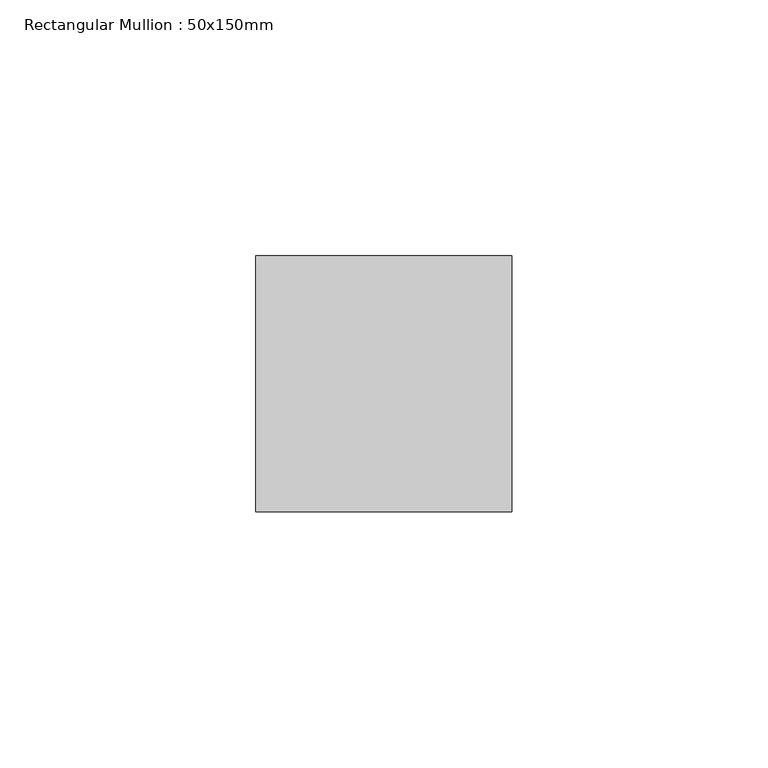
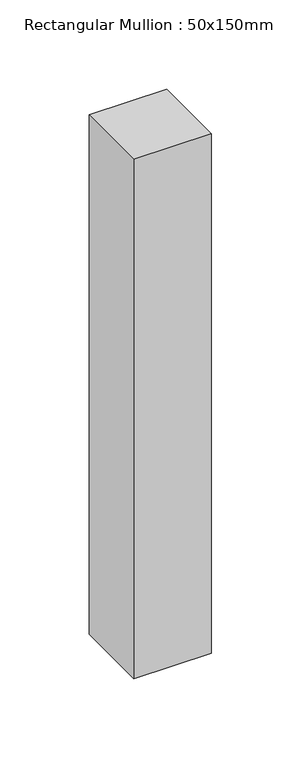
"""IFC4 building model written with IfcOpenShell, lengths in millimetres: member geometry, Rectangular Mullion : 50x150mm."""

import ifcopenshell
import ifcopenshell.guid

model = None  # the IFC model being written
_history = None  # IfcOwnerHistory: only IFC2X3 demands one
_inside = {}  # id of a spatial element -> (the spatial element, [elements in it])
_under = {}  # id of a project, library or spatial element -> (it, [spatial elements below it])
_declared = {}  # id of a project -> (the project, [libraries it declares])
_typed = {}  # id of a type object -> (the type object, [elements of that type])
_made_of = {}  # id of a material, layer set ... -> (it, [elements and type objects made of it])


def new_model(schema):
    """Start an empty IFC model of exactly this schema.

    Asked for "IFC4X3", IfcOpenShell would pick the latest addendum, in which some entities
    have other attributes; the version numbers below select the first issue.
    IFC2X3 requires an IfcOwnerHistory on every rooted entity: one is made here for all.
    """
    global model, _history
    if schema == "IFC4X3":
        model = ifcopenshell.file(schema_version=(4, 3, 0, 0))
    else:
        model = ifcopenshell.file(schema=schema)
    _inside.clear()
    _under.clear()
    _declared.clear()
    _typed.clear()
    _made_of.clear()
    _history = None
    if model.schema == "IFC2X3":
        org = make("IfcOrganization", Name="unknown")
        user = make(
            "IfcPersonAndOrganization",
            ThePerson=make("IfcPerson", FamilyName="unknown"),
            TheOrganization=org,
        )
        app = make(
            "IfcApplication",
            ApplicationDeveloper=org,
            Version="unknown",
            ApplicationFullName="unknown",
            ApplicationIdentifier="unknown",
        )
        _history = make(
            "IfcOwnerHistory",
            OwningUser=user,
            OwningApplication=app,
            ChangeAction="ADDED",
            CreationDate=0,
        )
    return model


def make(cls, **values):
    """One entity of the class cls with the attributes given. An attribute that is None is left unset."""
    return model.create_entity(
        cls, **{name: value for name, value in values.items() if value is not None}
    )


def rooted(cls, **values):
    """An entity with a GlobalId (a new one), such as an element, a storey or a relation."""
    return make(cls, GlobalId=ifcopenshell.guid.new(), OwnerHistory=_history, **values)


def si_unit(unit_type, name, prefix=None):
    """IfcSIUnit, for example si_unit("LENGTHUNIT", "METRE", prefix="MILLI")."""
    return make("IfcSIUnit", UnitType=unit_type, Prefix=prefix, Name=name)


def assignment(units):
    """IfcUnitAssignment: the units of a project."""
    return None if units is None else make("IfcUnitAssignment", Units=units)


def point(xyz):
    """IfcCartesianPoint."""
    return None if xyz is None else make("IfcCartesianPoint", Coordinates=xyz)


def direction(xyz):
    """IfcDirection."""
    return None if xyz is None else make("IfcDirection", DirectionRatios=xyz)


def frame(location, z_axis=None, x_axis=None):
    """IfcAxis2Placement3D, a coordinate frame: its origin and axes. An axis left out is left unset."""
    return make(
        "IfcAxis2Placement3D",
        Location=point(location),
        Axis=direction(z_axis),
        RefDirection=direction(x_axis),
    )


def origin():
    """The frame at (0, 0, 0) with its axes left unset."""
    return frame((0.0, 0.0, 0.0))


def place(relative_to, where):
    """IfcLocalPlacement: puts the frame where relative to a parent placement (None: the world)."""
    return make(
        "IfcLocalPlacement", PlacementRelTo=relative_to, RelativePlacement=where
    )


def context(
    kind, dimensions, precision=None, world=None, true_north=None, identifier=None
):
    """IfcGeometricRepresentationContext, for example the 3D "Model" context."""
    return make(
        "IfcGeometricRepresentationContext",
        ContextIdentifier=identifier,
        ContextType=kind,
        CoordinateSpaceDimension=dimensions,
        Precision=precision,
        WorldCoordinateSystem=world,
        TrueNorth=true_north,
    )


def project(units=None, contexts=None):
    """IfcProject with its units and contexts."""
    return rooted(
        "IfcProject",
        Name="project",
        RepresentationContexts=contexts,
        UnitsInContext=assignment(units),
    )


def spatial(cls, under=None, at=None, **own):
    """A site, building, storey or space (cls), placed at a placement, below another one or the project."""
    s = rooted(cls, ObjectPlacement=at, **own)
    if under is not None:
        _under.setdefault(under.id(), (under, []))[1].append(s)
    return s


def polyline(points):
    """IfcPolyline through the points."""
    return make("IfcPolyline", Points=[point(p) for p in points])


def outline(outer, holes=None, kind="AREA"):
    """IfcArbitraryClosedProfileDef: a profile drawn as a closed curve; with holes, ...WithVoids."""
    if holes is None:
        return make("IfcArbitraryClosedProfileDef", ProfileType=kind, OuterCurve=outer)
    return make(
        "IfcArbitraryProfileDefWithVoids",
        ProfileType=kind,
        OuterCurve=outer,
        InnerCurves=holes,
    )


def extrude(swept, where, along, depth):
    """IfcExtrudedAreaSolid: the profile swept, set in the frame where, extruded along a direction by depth."""
    return make(
        "IfcExtrudedAreaSolid",
        SweptArea=swept,
        Position=where,
        ExtrudedDirection=direction(along),
        Depth=depth,
    )


def shape(context_of_items, identifier, shape_type, items):
    """IfcShapeRepresentation: the items that make up one representation, for example the "Body"."""
    return make(
        "IfcShapeRepresentation",
        ContextOfItems=context_of_items,
        RepresentationIdentifier=identifier,
        RepresentationType=shape_type,
        Items=items,
    )


def source(mapping_origin, context_of_items, identifier, shape_type, items):
    """IfcRepresentationMap: a shape defined once, which mapped items show again and again."""
    return make(
        "IfcRepresentationMap",
        MappingOrigin=mapping_origin,
        MappedRepresentation=shape(context_of_items, identifier, shape_type, items),
    )


def transform(
    local_origin,
    x_axis=None,
    y_axis=None,
    z_axis=None,
    scale=None,
    scale2=None,
    scale3=None,
    uniform=True,
):
    """IfcCartesianTransformationOperator3D, or its non-uniform kind. x_axis, y_axis, z_axis: its Axis1, 2, 3."""
    if uniform:
        return make(
            "IfcCartesianTransformationOperator3D",
            Axis1=direction(x_axis),
            Axis2=direction(y_axis),
            LocalOrigin=point(local_origin),
            Scale=scale,
            Axis3=direction(z_axis),
        )
    return make(
        "IfcCartesianTransformationOperator3DnonUniform",
        Axis1=direction(x_axis),
        Axis2=direction(y_axis),
        LocalOrigin=point(local_origin),
        Scale=scale,
        Axis3=direction(z_axis),
        Scale2=scale2,
        Scale3=scale3,
    )


def mapped(mapping_source, mapping_target):
    """IfcMappedItem: shows the shape of a source again, moved by a transform."""
    return make(
        "IfcMappedItem", MappingSource=mapping_source, MappingTarget=mapping_target
    )


def made_of(thing, what):
    """Note that an element or type object is made of a material, layer set ...; save() writes the relation."""
    if what is not None:
        _made_of.setdefault(what.id(), (what, []))[1].append(thing)
    return thing


def element(
    cls,
    number,
    at=None,
    inside=None,
    cuts=None,
    type_object=None,
    material=None,
    context=None,
    identifier="Body",
    shape_type=None,
    held_by="IfcProductDefinitionShape",
    body=None,
    shapes=None,
    **own,
):
    """One element of the class cls, such as IfcWall. Its Tag is "e" and its number.

    at: its placement. inside: the storey or other place that contains it. cuts: it is an
    opening in that element (IfcRelVoidsElement). A single representation is given by context,
    identifier, shape_type and body (its items); several are given by shapes. held_by: the class
    of the entity that holds the representations. save() writes the other relations.
    """
    e = rooted(cls, Tag="e%d" % number, ObjectPlacement=at, **own)
    if body is not None:
        shapes = [shape(context, identifier, shape_type, body)]
    if shapes is not None:
        e.Representation = make(held_by, Representations=shapes)
    if inside is not None:
        _inside.setdefault(inside.id(), (inside, []))[1].append(e)
    if cuts is not None:
        rooted(
            "IfcRelVoidsElement", RelatingBuildingElement=cuts, RelatedOpeningElement=e
        )
    if type_object is not None:
        _typed.setdefault(type_object.id(), (type_object, []))[1].append(e)
    return made_of(e, material)


def aggregate(whole, parts):
    """IfcRelAggregates: a whole, such as a stair, and the parts it consists of."""
    return rooted("IfcRelAggregates", RelatingObject=whole, RelatedObjects=parts)


def save(model, path):
    """Write the relations noted so far, then the file.

    IfcRelAggregates (storeys below a building ...), IfcRelContainedInSpatialStructure (elements
    in a storey), IfcRelDefinesByType, IfcRelAssociatesMaterial and IfcRelDeclares: one each for
    every whole, place, type object, material and project.
    """
    for whole, parts in _under.values():
        aggregate(whole, parts)
    for where, things in _inside.values():
        rooted(
            "IfcRelContainedInSpatialStructure",
            RelatedElements=things,
            RelatingStructure=where,
        )
    for kind, things in _typed.values():
        rooted("IfcRelDefinesByType", RelatedObjects=things, RelatingType=kind)
    for what, things in _made_of.values():
        rooted("IfcRelAssociatesMaterial", RelatedObjects=things, RelatingMaterial=what)
    for by, libraries in _declared.values():
        rooted("IfcRelDeclares", RelatingContext=by, RelatedDefinitions=libraries)
    model.write(path)


def rectangular_mullion_50x150mm_6892ae44(model_context):
    return source(origin(), model_context, "Body", "SweptSolid", [
        extrude(outline(polyline([(0.0, 25.0), (0.0, -25.0), (-50.0, -25.0), (-50.0, 25.0), (0.0, 25.0)])), frame((0.0, 0.0, -355.0), z_axis=(0.0, 0.0, 1.0), x_axis=(1.0, 0.0, 0.0)), (0.0, 0.0, 1.0), 355.0),
    ])


if __name__ == "__main__":
    model = new_model("IFC4")
    model_context = context("Model", 3, world=origin())
    ifc_project = project(units=[si_unit("LENGTHUNIT", "METRE", prefix="MILLI")], contexts=[model_context])
    site = spatial("IfcSite", under=ifc_project)
    building = spatial("IfcBuilding", under=site)
    placement = place(None, origin())
    rectangular_mullion_50x150mm_shape = rectangular_mullion_50x150mm_6892ae44(model_context)
    element("IfcMember", 1, ObjectType="Rectangular Mullion : 50x150mm", at=placement, inside=building, context=model_context, shape_type="MappedRepresentation", body=[
        mapped(rectangular_mullion_50x150mm_shape, transform((0.0, 0.0, 0.0), x_axis=(1.0, 0.0, 0.0), y_axis=(0.0, 1.0, 0.0), z_axis=(0.0, 0.0, 1.0))),
    ])
    save(model, "model.ifc")
